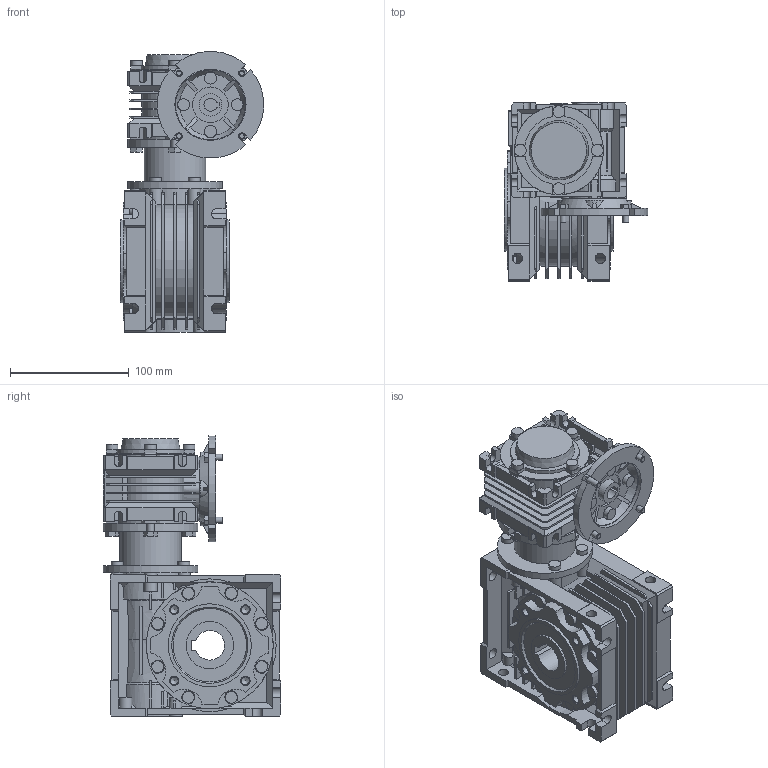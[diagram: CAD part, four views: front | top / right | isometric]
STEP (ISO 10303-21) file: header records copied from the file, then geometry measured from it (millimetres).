
FILE_DESCRIPTION(/* description */ ('STEP AP214'),/* implementation_level */ '2;1');
FILE_NAME(/* name */ 'NMRV-NMRV030-050100 (10x10)613125NO11NO00NO---(--------)',/* time_stamp */ '2024-10-22T11:01:07+02:00',/* author */ ('License CC BY-ND 4.0'),/* organization */ ('CADENAS'),/* preprocessor_version */ 'ST-DEVELOPER v19.3',/* originating_system */ 'PARTsolutions',/* authorisation */ ' ');
FILE_SCHEMA (('AUTOMOTIVE_DESIGN {1 0 10303 214 3 1 1}'));
Length unit declared in the file: millimetre
Products named in the file (13): NMRV-NMRV030-050100 (10x10)613125NO11NO00NO---(--------); 030-050100 (10x10)61314125No11No00NO---(--------)-d; 030-050100 (10x10)613125No11No00NO---d1; 030-050100 (10x10)613125No11No00T0631-d1; Gear unit 50; 050-25 (92)alc-n; VB 050-14 (14); Gear unit 30; 030-14 (63)alc-n; FT 030-050; Hollow shaft 30; VB 030-11 (11); 30-63 B14
Assembly tree (13 placements, depth 2):
  NMRV-NMRV030-050100 (10x10)613125NO11NO00NO---(--------)
    030-050100 (10x10)61314125No11No00NO---(--------)-d
    030-050100 (10x10)613125No11No00NO---d1
    030-050100 (10x10)613125No11No00T0631-d1  x2
    Gear unit 50
    050-25 (92)alc-n
    VB 050-14 (14)
    Gear unit 30
    030-14 (63)alc-n
    FT 030-050
    Hollow shaft 30
    VB 030-11 (11)
    30-63 B14
Bounding box: 120.85 x 150 x 236.85 mm (x, y, z)
Volume: 1513198.6 mm3; surface area: 352647.9 mm2
Topology: 9 solids, 21 shells, 1688 faces, 4464 edges, 2908 vertices
Faces by surface type: plane 1236, cylinder 354, cone 96, torus 2
Full cylindrical faces by diameter (mm): 3.545 x3, 3.775 x3, 4.65 x3, 4.917 x8, 5 x4, 5.55 x4, 6 x4, 6.647 x8, 8.8 x8, 10 x20, 16 x1, 19 x2, 24.8 x2, 28 x2, 30 x2, 34 x1, 37 x1, 38 x1, 40 x2, 47 x1, 52 x1, 55 x3, 60 x1, 70 x2, 75 x1, 80 x1, 107 x1
Entity records: 63038 total; most frequent: CARTESIAN_POINT 9601, ORIENTED_EDGE 8582, DIRECTION 8509, EDGE_CURVE 4291, LINE 3077, VECTOR 3077, VERTEX_POINT 2885, AXIS2_PLACEMENT_3D 2716
